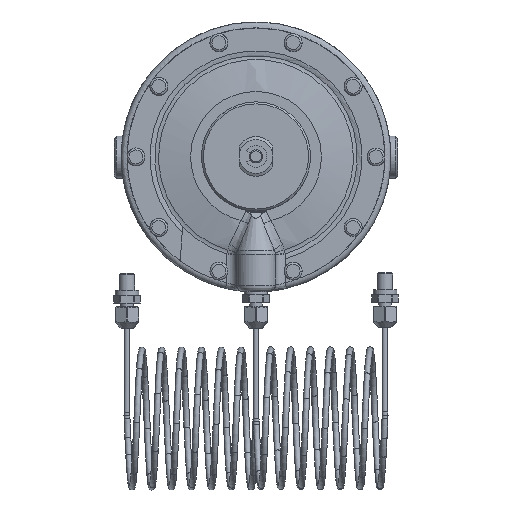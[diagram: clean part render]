
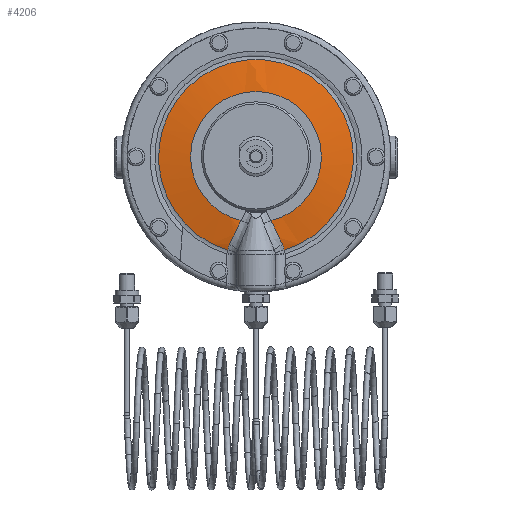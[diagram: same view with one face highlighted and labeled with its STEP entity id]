
A CAD part, top view. The second image highlights one B-rep face of the part: STEP entity #4206.
In plain terms, the highlighted free-form (B-spline) face has degree [3, 3] with [4, 7] control points.
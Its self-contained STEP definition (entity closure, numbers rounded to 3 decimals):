
#172=(
BOUNDED_SURFACE()
B_SPLINE_SURFACE(3,3,((#27754,#27755,#27756,#27757,#27758,#27759,#27760),
(#27761,#27762,#27763,#27764,#27765,#27766,#27767),(#27768,#27769,#27770,
#27771,#27772,#27773,#27774),(#27775,#27776,#27777,#27778,#27779,#27780,
#27781)),.UNSPECIFIED.,.F.,.F.,.F.)
B_SPLINE_SURFACE_WITH_KNOTS((4,4),(4,3,4),(0.,1.),(0.,0.5,1.),.UNSPECIFIED.)
GEOMETRIC_REPRESENTATION_ITEM()
RATIONAL_B_SPLINE_SURFACE(((1.,0.398,0.398,1.,0.398,
0.398,1.),(0.991,0.395,0.395,
0.991,0.395,0.395,0.991),
(0.991,0.395,0.395,0.991,
0.395,0.395,0.991),(1.,0.398,
0.398,1.,0.398,0.398,1.)))
REPRESENTATION_ITEM('')
SURFACE()
);
#2437=CIRCLE('',#18788,32.941);
#2453=CIRCLE('',#18809,49.087);
#3488=B_SPLINE_CURVE_WITH_KNOTS('',3,(#27736,#27737,#27738,#27739),.UNSPECIFIED.,
 .F.,.F.,(4,4),(0.,1.),.UNSPECIFIED.);
#3489=B_SPLINE_CURVE_WITH_KNOTS('',3,(#27741,#27742,#27743,#27744),.UNSPECIFIED.,
 .F.,.F.,(4,4),(0.,1.),.UNSPECIFIED.);
#3490=B_SPLINE_CURVE_WITH_KNOTS('',3,(#27745,#27746,#27747,#27748),.UNSPECIFIED.,
 .F.,.F.,(4,4),(0.,1.),.UNSPECIFIED.);
#3491=B_SPLINE_CURVE_WITH_KNOTS('',3,(#27750,#27751,#27752,#27753),.UNSPECIFIED.,
 .F.,.F.,(4,4),(0.,1.),.UNSPECIFIED.);
#4206=ADVANCED_FACE('',(#5714),#172,.T.);
#5714=FACE_OUTER_BOUND('',#6680,.T.);
#6680=EDGE_LOOP('',(#8878,#8879,#8880,#8881,#8882,#8883));
#8878=ORIENTED_EDGE('',*,*,#15105,.T.);
#8879=ORIENTED_EDGE('',*,*,#15106,.T.);
#8880=ORIENTED_EDGE('',*,*,#15107,.T.);
#8881=ORIENTED_EDGE('',*,*,#15068,.T.);
#8882=ORIENTED_EDGE('',*,*,#15108,.T.);
#8883=ORIENTED_EDGE('',*,*,#15109,.T.);
#13294=VERTEX_POINT('',#27528);
#13295=VERTEX_POINT('',#27530);
#13325=VERTEX_POINT('',#27734);
#13326=VERTEX_POINT('',#27735);
#13327=VERTEX_POINT('',#27740);
#13328=VERTEX_POINT('',#27749);
#15068=EDGE_CURVE('',#13295,#13294,#2437,.T.);
#15105=EDGE_CURVE('',#13325,#13326,#2453,.T.);
#15106=EDGE_CURVE('',#13326,#13327,#3488,.T.);
#15107=EDGE_CURVE('',#13327,#13295,#3489,.T.);
#15108=EDGE_CURVE('',#13294,#13328,#3490,.T.);
#15109=EDGE_CURVE('',#13328,#13325,#3491,.T.);
#18788=AXIS2_PLACEMENT_3D('',#27529,#21595,#21596);
#18809=AXIS2_PLACEMENT_3D('',#27733,#21645,#21646);
#21595=DIRECTION('',(0.,0.,-1.));
#21596=DIRECTION('',(-1.,0.,0.));
#21645=DIRECTION('',(0.,0.,1.));
#21646=DIRECTION('',(-1.,0.,0.));
#27528=CARTESIAN_POINT('',(7.52,-32.071,100.));
#27529=CARTESIAN_POINT('',(0.,0.,100.));
#27530=CARTESIAN_POINT('',(-7.52,-32.071,100.));
#27733=CARTESIAN_POINT('',(0.,0.,97.321));
#27734=CARTESIAN_POINT('',(14.207,-46.986,97.321));
#27735=CARTESIAN_POINT('',(-14.207,-46.986,97.321));
#27736=CARTESIAN_POINT('',(-14.207,-46.986,97.321));
#27737=CARTESIAN_POINT('',(-14.1,-45.982,97.66));
#27738=CARTESIAN_POINT('',(-13.828,-45.014,97.968));
#27739=CARTESIAN_POINT('',(-13.389,-44.083,98.245));
#27740=CARTESIAN_POINT('',(-13.389,-44.083,98.245));
#27741=CARTESIAN_POINT('',(-13.389,-44.083,98.245));
#27742=CARTESIAN_POINT('',(-11.521,-40.123,99.424));
#27743=CARTESIAN_POINT('',(-9.483,-36.158,100.));
#27744=CARTESIAN_POINT('',(-7.52,-32.071,100.));
#27745=CARTESIAN_POINT('',(7.52,-32.071,100.));
#27746=CARTESIAN_POINT('',(9.483,-36.158,100.));
#27747=CARTESIAN_POINT('',(11.521,-40.123,99.424));
#27748=CARTESIAN_POINT('',(13.389,-44.083,98.245));
#27749=CARTESIAN_POINT('',(13.389,-44.083,98.245));
#27750=CARTESIAN_POINT('',(13.389,-44.083,98.245));
#27751=CARTESIAN_POINT('',(13.828,-45.014,97.968));
#27752=CARTESIAN_POINT('',(14.1,-45.982,97.66));
#27753=CARTESIAN_POINT('',(14.207,-46.986,97.321));
#27754=CARTESIAN_POINT('',(-9.53,-48.153,97.321));
#27755=CARTESIAN_POINT('',(-89.731,-32.28,97.321));
#27756=CARTESIAN_POINT('',(-81.757,49.087,97.321));
#27757=CARTESIAN_POINT('',(0.,49.087,97.321));
#27758=CARTESIAN_POINT('',(81.757,49.087,97.321));
#27759=CARTESIAN_POINT('',(89.731,-32.28,97.321));
#27760=CARTESIAN_POINT('',(9.53,-48.153,97.321));
#27761=CARTESIAN_POINT('',(-8.519,-43.042,99.099));
#27762=CARTESIAN_POINT('',(-80.207,-28.854,99.099));
#27763=CARTESIAN_POINT('',(-73.079,43.877,99.099));
#27764=CARTESIAN_POINT('',(0.,43.877,99.099));
#27765=CARTESIAN_POINT('',(73.079,43.877,99.099));
#27766=CARTESIAN_POINT('',(80.207,-28.854,99.099));
#27767=CARTESIAN_POINT('',(8.519,-43.042,99.099));
#27768=CARTESIAN_POINT('',(-7.464,-37.715,100.));
#27769=CARTESIAN_POINT('',(-70.28,-25.283,100.));
#27770=CARTESIAN_POINT('',(-64.034,38.446,100.));
#27771=CARTESIAN_POINT('',(0.,38.446,100.));
#27772=CARTESIAN_POINT('',(64.034,38.446,100.));
#27773=CARTESIAN_POINT('',(70.28,-25.283,100.));
#27774=CARTESIAN_POINT('',(7.464,-37.715,100.));
#27775=CARTESIAN_POINT('',(-6.395,-32.314,100.));
#27776=CARTESIAN_POINT('',(-60.217,-21.662,100.));
#27777=CARTESIAN_POINT('',(-54.865,32.941,100.));
#27778=CARTESIAN_POINT('',(0.,32.941,100.));
#27779=CARTESIAN_POINT('',(54.865,32.941,100.));
#27780=CARTESIAN_POINT('',(60.217,-21.662,100.));
#27781=CARTESIAN_POINT('',(6.395,-32.314,100.));
